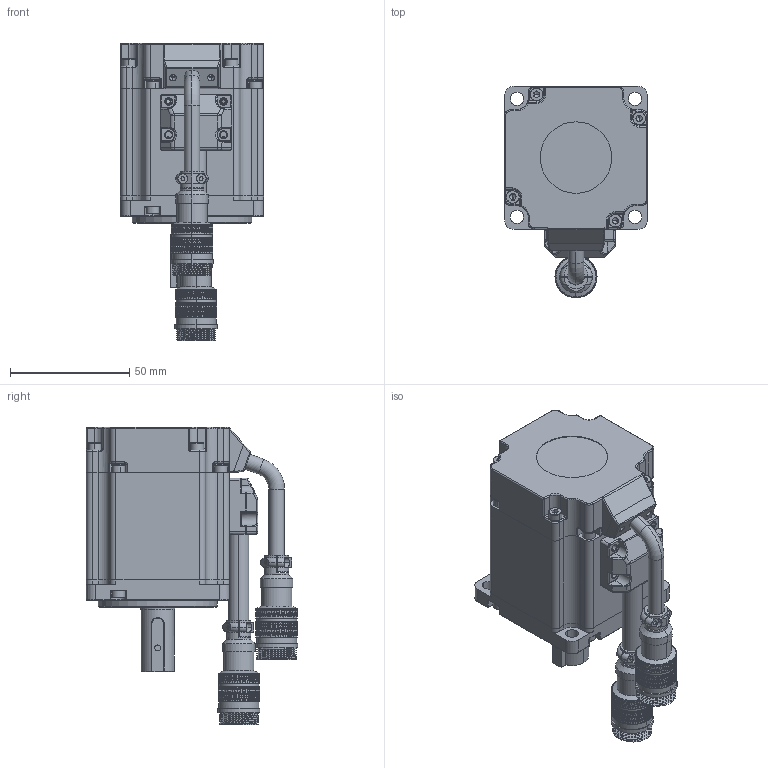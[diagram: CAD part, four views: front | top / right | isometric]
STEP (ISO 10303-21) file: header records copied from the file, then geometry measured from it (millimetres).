
FILE_DESCRIPTION (( 'STEP AP214' ), '1' );
FILE_NAME ('V7E-L06A-R2030-¡õ1SF.STEP', '2022-03-22T07:42:52', ( '' ), ( '' ), 'SwSTEP 2.0', 'SolidWorks 2014', '' );
FILE_SCHEMA (( 'AUTOMOTIVE_DESIGN' ));
Length unit declared in the file: millimetre
Products named in the file (15): 陓瘍盄躇猾裔; 囀鞠褒 ISO 4762 M3 x 12 --- 12N; GX16-4K; Áã¼þ3^V7E-L06A-R4030-¡õ2SF; V7E-L06A-R2030-¡õ1SF; 400W-隅赽郪璃-201126; ヶ傷裔_60價釱-201126; 蚐猾 D00B999YF2-TC 15-22-5; Áã¼þ2^V7E-L06A-R4030-¡õ2SF; 60新编码器后罩-甩线式-201215; 60_400W儂褲-201126; 60#价陬粣-38沺郋; GX16-9K; 雄薯盄揤盄裔; 普通型 平键   C 5x5x22.5 带M3起键螺钉孔
Assembly tree (25 placements, depth 3):
  V7E-L06A-R2030-¡õ1SF
    400W-隅赽郪璃-201126
      60_400W儂褲-201126
    蚐猾 D00B999YF2-TC 15-22-5
    囀鞠褒 ISO 4762 M3 x 12 --- 12N  x12
    普通型 平键   C 5x5x22.5 带M3起键螺钉孔
    60#价陬粣-38沺郋
    雄薯盄揤盄裔
    60新编码器后罩-甩线式-201215
    陓瘍盄躇猾裔
    Áã¼þ2^V7E-L06A-R4030-¡õ2SF
    Áã¼þ3^V7E-L06A-R4030-¡õ2SF
    GX16-4K
    GX16-9K
    ヶ傷裔_60價釱-201126
Bounding box: 60 x 88.71 x 124.65 mm (x, y, z)
Volume: 107988.2 mm3; surface area: 73346 mm2
Topology: 26 solids, 26 shells, 5929 faces, 14384 edges, 9280 vertices
Faces by surface type: plane 3833, cylinder 1608, torus 172, bspline 149, cone 139, sphere 28
Entity records: 176029 total; most frequent: CARTESIAN_POINT 53673, ORIENTED_EDGE 27358, DIRECTION 21252, EDGE_CURVE 13679, VERTEX_POINT 8917, AXIS2_PLACEMENT_3D 8254, EDGE_LOOP 6546, ADVANCED_FACE 5632
